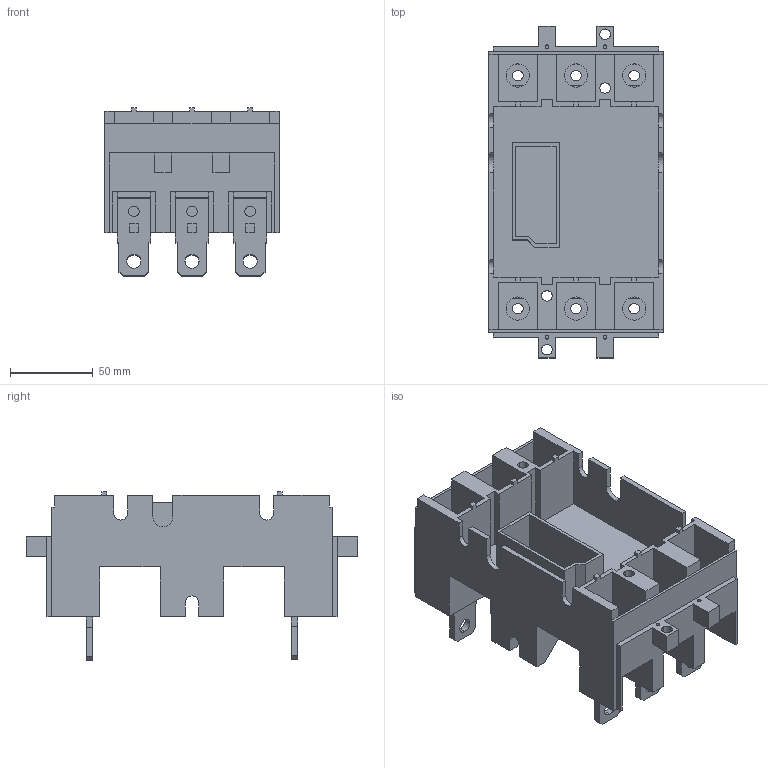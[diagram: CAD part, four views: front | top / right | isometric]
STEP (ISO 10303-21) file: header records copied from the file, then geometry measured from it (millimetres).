
FILE_DESCRIPTION (( 'STEP AP214' ), '1' );
FILE_NAME ('Êîìïëåêò äëÿ âòû÷íîãî ïðèñîåäèíåíèÿ OptiMat D250 ãîðèçîíòàëüíûå âûâîäû âàðèàíò 2.STEP', '2023-04-26T11:26:54', ( '' ), ( '' ), 'SwSTEP 2.0', 'SolidWorks 2018', '' );
FILE_SCHEMA (( 'AUTOMOTIVE_DESIGN' ));
Length unit declared in the file: millimetre
Products named in the file (1): Êîìïëåêò äëÿ âòû÷íîãî ïðèñîåäèíåíèÿ OptiMat D250 ãîðèçîíòàëüíûå âûâîäû âàðèàíò 2
Bounding box: 105 x 200 x 101.7 mm (x, y, z)
Volume: 373576.7 mm3; surface area: 168018.3 mm2
Topology: 7 solids, 7 shells, 384 faces, 1080 edges, 716 vertices
Faces by surface type: plane 300, cylinder 84
Entity records: 16722 total; most frequent: CARTESIAN_POINT 2187, ORIENTED_EDGE 2160, DIRECTION 2014, EDGE_CURVE 1080, LINE 912, VECTOR 912, VERTEX_POINT 716, AXIS2_PLACEMENT_3D 551
